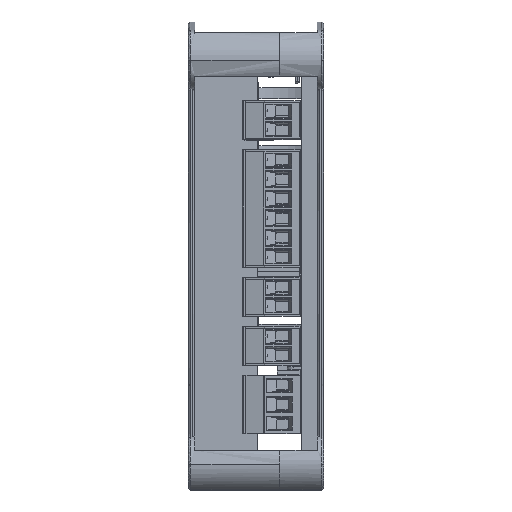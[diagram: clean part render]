
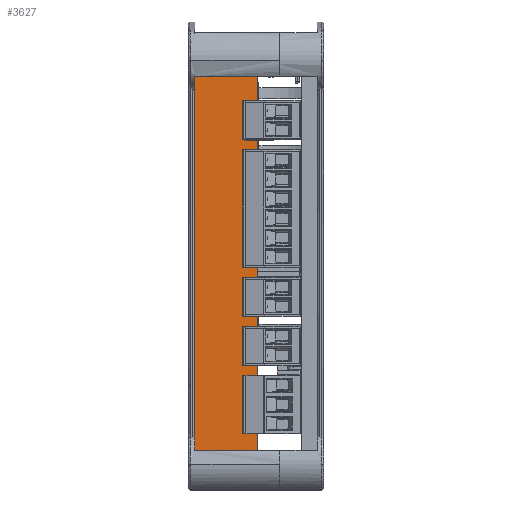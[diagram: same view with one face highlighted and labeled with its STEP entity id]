
A CAD part, left-side view. The second image highlights one B-rep face of the part: STEP entity #3627.
In plain terms, the highlighted planar face has unit normal (-1, 0, 0).
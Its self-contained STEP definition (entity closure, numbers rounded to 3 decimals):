
#3627=ADVANCED_FACE('',(#8271),#75970,.T.);
#8271=FACE_OUTER_BOUND('',#13109,.T.);
#13109=EDGE_LOOP('',(#31296,#31297,#31298,#31299));
#31296=ORIENTED_EDGE('',*,*,#48364,.T.);
#31297=ORIENTED_EDGE('',*,*,#48547,.T.);
#31298=ORIENTED_EDGE('',*,*,#48548,.T.);
#31299=ORIENTED_EDGE('',*,*,#48549,.T.);
#48364=EDGE_CURVE('',#71028,#71027,#59617,.T.);
#48547=EDGE_CURVE('',#71027,#71212,#59800,.T.);
#48548=EDGE_CURVE('',#71212,#71213,#59801,.T.);
#48549=EDGE_CURVE('',#71213,#71028,#59802,.T.);
#59617=B_SPLINE_CURVE_WITH_KNOTS('',1,(#139719,#139720),.UNSPECIFIED.,.F.,
 .F.,(2,2),(0.,96.947),.UNSPECIFIED.);
#59800=B_SPLINE_CURVE_WITH_KNOTS('',1,(#140315,#140316),.UNSPECIFIED.,.F.,
 .F.,(2,2),(0.,16.4),.UNSPECIFIED.);
#59801=B_SPLINE_CURVE_WITH_KNOTS('',1,(#140317,#140318),.UNSPECIFIED.,.F.,
 .F.,(2,2),(0.,96.947),.UNSPECIFIED.);
#59802=B_SPLINE_CURVE_WITH_KNOTS('',1,(#140319,#140320),.UNSPECIFIED.,.F.,
 .F.,(2,2),(0.,16.4),.UNSPECIFIED.);
#71027=VERTEX_POINT('',#138432);
#71028=VERTEX_POINT('',#138433);
#71212=VERTEX_POINT('',#138617);
#71213=VERTEX_POINT('',#138618);
#75970=PLANE('',#83877);
#83877=AXIS2_PLACEMENT_3D('',#136449,#87428,$);
#87428=DIRECTION('',(-1.,0.,0.));
#136449=CARTESIAN_POINT('',(-42.21,23.741,-57.798));
#138432=CARTESIAN_POINT('',(-42.21,22.1,-48.102));
#138433=CARTESIAN_POINT('',(-42.21,22.1,48.845));
#138617=CARTESIAN_POINT('',(-42.21,5.7,-48.102));
#138618=CARTESIAN_POINT('',(-42.21,5.7,48.845));
#139719=CARTESIAN_POINT('',(-42.21,22.1,48.845));
#139720=CARTESIAN_POINT('',(-42.21,22.1,-48.102));
#140315=CARTESIAN_POINT('',(-42.21,22.1,-48.102));
#140316=CARTESIAN_POINT('',(-42.21,5.7,-48.102));
#140317=CARTESIAN_POINT('',(-42.21,5.7,-48.102));
#140318=CARTESIAN_POINT('',(-42.21,5.7,48.845));
#140319=CARTESIAN_POINT('',(-42.21,5.7,48.845));
#140320=CARTESIAN_POINT('',(-42.21,22.1,48.845));
